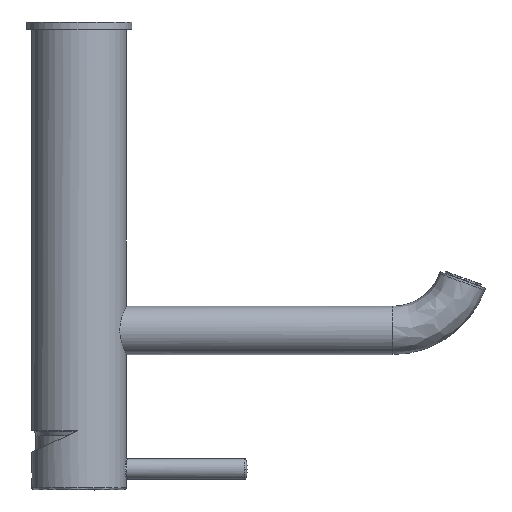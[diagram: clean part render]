
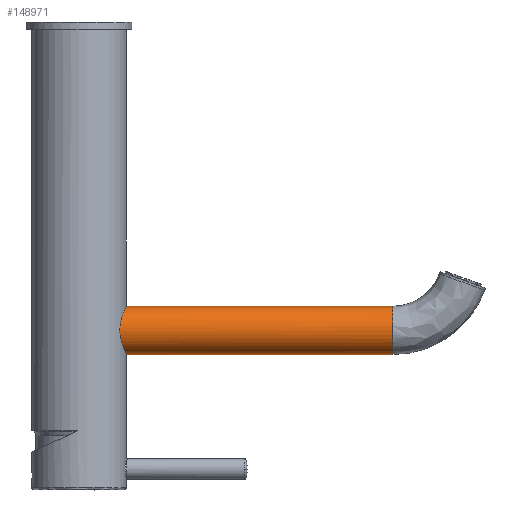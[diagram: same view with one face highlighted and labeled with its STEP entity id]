
A CAD part, front view. The second image highlights one B-rep face of the part: STEP entity #148971.
In plain terms, the highlighted cylindrical face has radius 11.5 mm (diameter 23 mm), a partial arc.
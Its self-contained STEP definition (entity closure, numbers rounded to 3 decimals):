
#3090 = CARTESIAN_POINT ( 'NONE',  ( 22.5, 0., 36.3 ) ) ;
#10321 = CARTESIAN_POINT ( 'NONE',  ( 20.776, -8.642, 55.396 ) ) ;
#11302 = CARTESIAN_POINT ( 'NONE',  ( 19.766, -10.752, 51.898 ) ) ;
#12333 = CARTESIAN_POINT ( 'NONE',  ( 19.429, -11.348, 49.703 ) ) ;
#13331 = CARTESIAN_POINT ( 'NONE',  ( 22.5, -0.765, 59.3 ) ) ;
#18260 = ORIENTED_EDGE ( 'NONE', *, *, #101417, .F. ) ;
#20480 = DIRECTION ( 'NONE',  ( -1., 0., 0. ) ) ;
#23576 = VERTEX_POINT ( 'NONE', #3090 ) ;
#27699 = CARTESIAN_POINT ( 'NONE',  ( 21.177, -7.609, 39.169 ) ) ;
#28721 = CARTESIAN_POINT ( 'NONE',  ( 21.373, -7.037, 38.697 ) ) ;
#29763 = CARTESIAN_POINT ( 'NONE',  ( 19.339, -11.5, 48.171 ) ) ;
#30747 = CARTESIAN_POINT ( 'NONE',  ( 20.178, -9.965, 42.012 ) ) ;
#33456 = CARTESIAN_POINT ( 'NONE',  ( 149.342, 0., 59.3 ) ) ;
#35890 = CARTESIAN_POINT ( 'NONE',  ( 149.342, 0., 47.8 ) ) ;
#39897 = VERTEX_POINT ( 'NONE', #33456 ) ;
#42118 = CARTESIAN_POINT ( 'NONE',  ( 21.748, -5.806, 37.845 ) ) ;
#44145 = CARTESIAN_POINT ( 'NONE',  ( 19.35, -11.481, 48.56 ) ) ;
#44752 = B_SPLINE_CURVE_WITH_KNOTS ( 'NONE', 3,
 ( #84153, #193080, #52522, #177651, #162196, #105520, #139438, #167286, #42118, #169341, #28721, #27699, #184688, #153819, #200110, #185708, #76896, #30747, #186721, #170349, #199114, #45167, #93166, #90156, #60573, #29763, #44145, #152802, #12333, #168323, #198104, #91164, #11302, #74895, #123033, #57552, #202115, #10321, #137409, #46180, #107551, #182680, #92173, #154844, #108549, #59575, #135411, #122045, #13331, #136404 ),
 .UNSPECIFIED., .F., .F.,
 ( 4, 2, 2, 2, 2, 2, 2, 2, 2, 2, 2, 2, 2, 2, 2, 2, 2, 2, 2, 2, 2, 2, 2, 2, 4 ),
 ( 0., 0.002, 0.003, 0.005, 0.007, 0.008, 0.009, 0.01, 0.011, 0.014, 0.015, 0.016, 0.018, 0.019, 0.021, 0.022, 0.023, 0.025, 0.026, 0.027, 0.03, 0.032, 0.033, 0.034, 0.037 ),
 .UNSPECIFIED. ) ;
#45167 = CARTESIAN_POINT ( 'NONE',  ( 19.571, -11.102, 44.777 ) ) ;
#46180 = CARTESIAN_POINT ( 'NONE',  ( 21.181, -7.612, 56.452 ) ) ;
#51739 = VERTEX_POINT ( 'NONE', #144290 ) ;
#52239 = CARTESIAN_POINT ( 'NONE',  ( 149.342, 0., 36.3 ) ) ;
#52522 = CARTESIAN_POINT ( 'NONE',  ( 22.46, -1.534, 36.377 ) ) ;
#55632 = DIRECTION ( 'NONE',  ( 1., 0., 0. ) ) ;
#56600 = VECTOR ( 'NONE', #55632, 1000. ) ;
#57552 = CARTESIAN_POINT ( 'NONE',  ( 20.472, -9.338, 54.522 ) ) ;
#59575 = CARTESIAN_POINT ( 'NONE',  ( 22.299, -3.024, 58.902 ) ) ;
#60573 = CARTESIAN_POINT ( 'NONE',  ( 19.34, -11.499, 47.022 ) ) ;
#63019 = DIRECTION ( 'NONE',  ( 1., 0., 0. ) ) ;
#72035 = VECTOR ( 'NONE', #194690, 1000. ) ;
#74895 = CARTESIAN_POINT ( 'NONE',  ( 19.999, -10.314, 52.942 ) ) ;
#76896 = CARTESIAN_POINT ( 'NONE',  ( 20.47, -9.343, 41.085 ) ) ;
#84153 = CARTESIAN_POINT ( 'NONE',  ( 22.5, 0., 36.3 ) ) ;
#85053 = AXIS2_PLACEMENT_3D ( 'NONE', #35890, #20480, #190872 ) ;
#90156 = CARTESIAN_POINT ( 'NONE',  ( 19.386, -11.423, 46.267 ) ) ;
#91164 = CARTESIAN_POINT ( 'NONE',  ( 19.694, -10.882, 51.539 ) ) ;
#92173 = CARTESIAN_POINT ( 'NONE',  ( 21.917, -5.138, 58.115 ) ) ;
#93166 = CARTESIAN_POINT ( 'NONE',  ( 19.516, -11.197, 45.149 ) ) ;
#101417 = EDGE_CURVE ( 'NONE', #51739, #39897, #148847, .T. ) ;
#103892 = EDGE_CURVE ( 'NONE', #157845, #39897, #186667, .T. ) ;
#105520 = CARTESIAN_POINT ( 'NONE',  ( 22.188, -3.75, 36.922 ) ) ;
#105840 = ORIENTED_EDGE ( 'NONE', *, *, #143258, .F. ) ;
#107551 = CARTESIAN_POINT ( 'NONE',  ( 21.379, -7.042, 56.922 ) ) ;
#108549 = CARTESIAN_POINT ( 'NONE',  ( 22.188, -3.749, 58.678 ) ) ;
#111316 = ORIENTED_EDGE ( 'NONE', *, *, #103892, .T. ) ;
#117598 = CARTESIAN_POINT ( 'NONE',  ( 149.342, 0., 36.3 ) ) ;
#122045 = CARTESIAN_POINT ( 'NONE',  ( 22.461, -1.523, 59.225 ) ) ;
#123033 = CARTESIAN_POINT ( 'NONE',  ( 20.18, -9.96, 53.596 ) ) ;
#125532 = DIRECTION ( 'NONE',  ( 0., 0., -1. ) ) ;
#133996 = LINE ( 'NONE', #117598, #72035 ) ;
#135411 = CARTESIAN_POINT ( 'NONE',  ( 22.347, -2.65, 58.997 ) ) ;
#136404 = CARTESIAN_POINT ( 'NONE',  ( 22.5, 0., 59.3 ) ) ;
#137409 = CARTESIAN_POINT ( 'NONE',  ( 20.878, -8.394, 55.67 ) ) ;
#139438 = CARTESIAN_POINT ( 'NONE',  ( 22.125, -4.108, 37.052 ) ) ;
#139878 = CARTESIAN_POINT ( 'NONE',  ( 149.342, 0., 47.8 ) ) ;
#140870 = FACE_OUTER_BOUND ( 'NONE', #193374, .T. ) ;
#143258 = EDGE_CURVE ( 'NONE', #23576, #51739, #44752, .T. ) ;
#144290 = CARTESIAN_POINT ( 'NONE',  ( 22.5, 0., 59.3 ) ) ;
#148847 = LINE ( 'NONE', #196195, #56600 ) ;
#148971 = ADVANCED_FACE ( 'NONE', ( #140870 ), #155268, .T. ) ;
#152802 = CARTESIAN_POINT ( 'NONE',  ( 19.395, -11.405, 49.325 ) ) ;
#153819 = CARTESIAN_POINT ( 'NONE',  ( 20.874, -8.402, 39.939 ) ) ;
#154844 = CARTESIAN_POINT ( 'NONE',  ( 22.126, -4.103, 58.55 ) ) ;
#155268 = CYLINDRICAL_SURFACE ( 'NONE', #179162, 11.5 ) ;
#157845 = VERTEX_POINT ( 'NONE', #52239 ) ;
#162196 = CARTESIAN_POINT ( 'NONE',  ( 22.299, -3.02, 36.697 ) ) ;
#167286 = CARTESIAN_POINT ( 'NONE',  ( 21.914, -5.15, 37.49 ) ) ;
#168323 = CARTESIAN_POINT ( 'NONE',  ( 19.516, -11.198, 50.447 ) ) ;
#169341 = CARTESIAN_POINT ( 'NONE',  ( 21.47, -6.736, 38.472 ) ) ;
#170349 = CARTESIAN_POINT ( 'NONE',  ( 19.767, -10.749, 43.697 ) ) ;
#177651 = CARTESIAN_POINT ( 'NONE',  ( 22.346, -2.651, 36.603 ) ) ;
#179162 = AXIS2_PLACEMENT_3D ( 'NONE', #139878, #63019, #125532 ) ;
#182680 = CARTESIAN_POINT ( 'NONE',  ( 21.75, -5.796, 57.761 ) ) ;
#184688 = CARTESIAN_POINT ( 'NONE',  ( 21.076, -7.881, 39.417 ) ) ;
#185708 = CARTESIAN_POINT ( 'NONE',  ( 20.571, -9.12, 40.784 ) ) ;
#186667 = CIRCLE ( 'NONE', #85053, 11.5 ) ;
#186721 = CARTESIAN_POINT ( 'NONE',  ( 19.998, -10.316, 42.664 ) ) ;
#188134 = ORIENTED_EDGE ( 'NONE', *, *, #190751, .T. ) ;
#190751 = EDGE_CURVE ( 'NONE', #23576, #157845, #133996, .T. ) ;
#190872 = DIRECTION ( 'NONE',  ( 0., 0., -1. ) ) ;
#193080 = CARTESIAN_POINT ( 'NONE',  ( 22.5, -0.775, 36.3 ) ) ;
#193374 = EDGE_LOOP ( 'NONE', ( #18260, #105840, #188134, #111316 ) ) ;
#194690 = DIRECTION ( 'NONE',  ( 1., 0., 0. ) ) ;
#196195 = CARTESIAN_POINT ( 'NONE',  ( 149.342, 0., 59.3 ) ) ;
#198104 = CARTESIAN_POINT ( 'NONE',  ( 19.569, -11.104, 50.814 ) ) ;
#199114 = CARTESIAN_POINT ( 'NONE',  ( 19.696, -10.878, 44.05 ) ) ;
#200110 = CARTESIAN_POINT ( 'NONE',  ( 20.773, -8.649, 40.212 ) ) ;
#202115 = CARTESIAN_POINT ( 'NONE',  ( 20.573, -9.114, 54.823 ) ) ;
